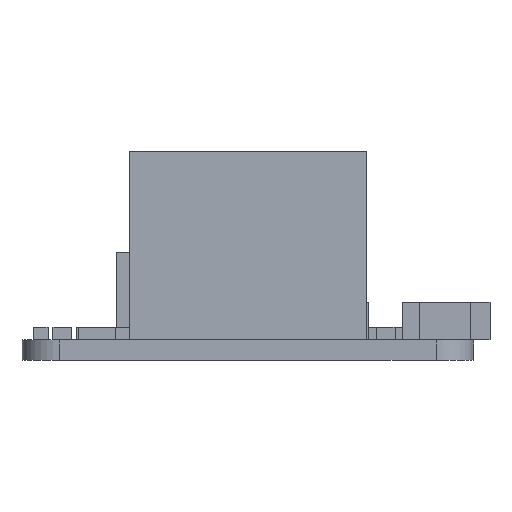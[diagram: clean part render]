
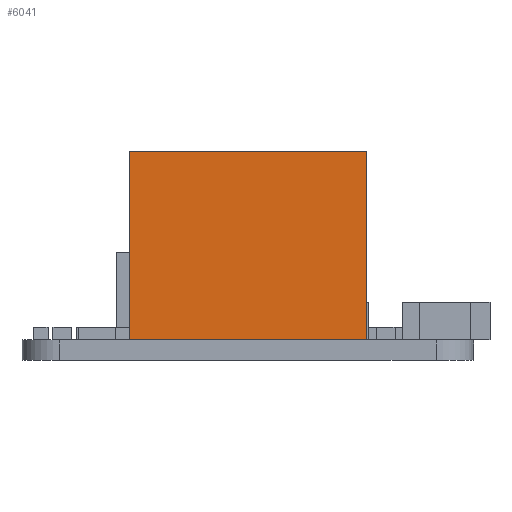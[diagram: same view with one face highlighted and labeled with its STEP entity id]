
A CAD part, front view. The second image highlights one B-rep face of the part: STEP entity #6041.
In plain terms, the highlighted planar face has unit normal (0, -1, 0).
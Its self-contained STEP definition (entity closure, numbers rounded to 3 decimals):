
#90 = PLANE('',#91);
#91 = AXIS2_PLACEMENT_3D('',#92,#93,#94);
#92 = CARTESIAN_POINT('',(0.,13.,1.62));
#93 = DIRECTION('',(0.,0.,1.));
#94 = DIRECTION('',(1.,0.,-0.));
#1089 = VERTEX_POINT('',#1090);
#1090 = CARTESIAN_POINT('',(-9.458,-29.547,1.62));
#1106 = PLANE('',#1107);
#1107 = AXIS2_PLACEMENT_3D('',#1108,#1109,#1110);
#1108 = CARTESIAN_POINT('',(-9.458,-29.547,1.62));
#1109 = DIRECTION('',(1.,0.,-0.));
#1110 = DIRECTION('',(0.,0.,1.));
#1147 = VERTEX_POINT('',#1148);
#1148 = CARTESIAN_POINT('',(9.457,-29.547,1.62));
#1162 = PLANE('',#1163);
#1163 = AXIS2_PLACEMENT_3D('',#1164,#1165,#1166);
#1164 = CARTESIAN_POINT('',(9.457,-29.547,1.62));
#1165 = DIRECTION('',(1.,0.,-0.));
#1166 = DIRECTION('',(0.,0.,1.));
#1174 = EDGE_CURVE('',#1089,#1147,#1175,.T.);
#1175 = SURFACE_CURVE('',#1176,(#1180,#1187),.PCURVE_S1.);
#1176 = LINE('',#1177,#1178);
#1177 = CARTESIAN_POINT('',(-9.458,-29.547,1.62));
#1178 = VECTOR('',#1179,1.);
#1179 = DIRECTION('',(1.,0.,-0.));
#1180 = PCURVE('',#90,#1181);
#1181 = DEFINITIONAL_REPRESENTATION('',(#1182),#1186);
#1182 = LINE('',#1183,#1184);
#1183 = CARTESIAN_POINT('',(-9.458,-42.547));
#1184 = VECTOR('',#1185,1.);
#1185 = DIRECTION('',(1.,0.));
#1186 = ( GEOMETRIC_REPRESENTATION_CONTEXT(2) 
PARAMETRIC_REPRESENTATION_CONTEXT() REPRESENTATION_CONTEXT('2D SPACE',''
  ) );
#1187 = PCURVE('',#1188,#1193);
#1188 = PLANE('',#1189);
#1189 = AXIS2_PLACEMENT_3D('',#1190,#1191,#1192);
#1190 = CARTESIAN_POINT('',(-9.458,-29.547,1.62));
#1191 = DIRECTION('',(-0.,1.,0.));
#1192 = DIRECTION('',(0.,0.,1.));
#1193 = DEFINITIONAL_REPRESENTATION('',(#1194),#1198);
#1194 = LINE('',#1195,#1196);
#1195 = CARTESIAN_POINT('',(0.,0.));
#1196 = VECTOR('',#1197,1.);
#1197 = DIRECTION('',(0.,1.));
#1198 = ( GEOMETRIC_REPRESENTATION_CONTEXT(2) 
PARAMETRIC_REPRESENTATION_CONTEXT() REPRESENTATION_CONTEXT('2D SPACE',''
  ) );
#5920 = EDGE_CURVE('',#1089,#5921,#5923,.T.);
#5921 = VERTEX_POINT('',#5922);
#5922 = CARTESIAN_POINT('',(-9.458,-29.547,16.62));
#5923 = SURFACE_CURVE('',#5924,(#5928,#5935),.PCURVE_S1.);
#5924 = LINE('',#5925,#5926);
#5925 = CARTESIAN_POINT('',(-9.458,-29.547,1.62));
#5926 = VECTOR('',#5927,1.);
#5927 = DIRECTION('',(0.,0.,1.));
#5928 = PCURVE('',#1106,#5929);
#5929 = DEFINITIONAL_REPRESENTATION('',(#5930),#5934);
#5930 = LINE('',#5931,#5932);
#5931 = CARTESIAN_POINT('',(0.,0.));
#5932 = VECTOR('',#5933,1.);
#5933 = DIRECTION('',(1.,0.));
#5934 = ( GEOMETRIC_REPRESENTATION_CONTEXT(2) 
PARAMETRIC_REPRESENTATION_CONTEXT() REPRESENTATION_CONTEXT('2D SPACE',''
  ) );
#5935 = PCURVE('',#1188,#5936);
#5936 = DEFINITIONAL_REPRESENTATION('',(#5937),#5941);
#5937 = LINE('',#5938,#5939);
#5938 = CARTESIAN_POINT('',(0.,0.));
#5939 = VECTOR('',#5940,1.);
#5940 = DIRECTION('',(1.,0.));
#5941 = ( GEOMETRIC_REPRESENTATION_CONTEXT(2) 
PARAMETRIC_REPRESENTATION_CONTEXT() REPRESENTATION_CONTEXT('2D SPACE',''
  ) );
#5981 = PLANE('',#5982);
#5982 = AXIS2_PLACEMENT_3D('',#5983,#5984,#5985);
#5983 = CARTESIAN_POINT('',(-9.458,-29.547,16.62));
#5984 = DIRECTION('',(0.,0.,1.));
#5985 = DIRECTION('',(1.,0.,-0.));
#6041 = ADVANCED_FACE('',(#6042),#1188,.F.);
#6042 = FACE_BOUND('',#6043,.F.);
#6043 = EDGE_LOOP('',(#6044,#6045,#6046,#6069));
#6044 = ORIENTED_EDGE('',*,*,#1174,.F.);
#6045 = ORIENTED_EDGE('',*,*,#5920,.T.);
#6046 = ORIENTED_EDGE('',*,*,#6047,.T.);
#6047 = EDGE_CURVE('',#5921,#6048,#6050,.T.);
#6048 = VERTEX_POINT('',#6049);
#6049 = CARTESIAN_POINT('',(9.457,-29.547,16.62));
#6050 = SURFACE_CURVE('',#6051,(#6055,#6062),.PCURVE_S1.);
#6051 = LINE('',#6052,#6053);
#6052 = CARTESIAN_POINT('',(-9.458,-29.547,16.62));
#6053 = VECTOR('',#6054,1.);
#6054 = DIRECTION('',(1.,0.,-0.));
#6055 = PCURVE('',#1188,#6056);
#6056 = DEFINITIONAL_REPRESENTATION('',(#6057),#6061);
#6057 = LINE('',#6058,#6059);
#6058 = CARTESIAN_POINT('',(15.,0.));
#6059 = VECTOR('',#6060,1.);
#6060 = DIRECTION('',(0.,1.));
#6061 = ( GEOMETRIC_REPRESENTATION_CONTEXT(2) 
PARAMETRIC_REPRESENTATION_CONTEXT() REPRESENTATION_CONTEXT('2D SPACE',''
  ) );
#6062 = PCURVE('',#5981,#6063);
#6063 = DEFINITIONAL_REPRESENTATION('',(#6064),#6068);
#6064 = LINE('',#6065,#6066);
#6065 = CARTESIAN_POINT('',(0.,0.));
#6066 = VECTOR('',#6067,1.);
#6067 = DIRECTION('',(1.,0.));
#6068 = ( GEOMETRIC_REPRESENTATION_CONTEXT(2) 
PARAMETRIC_REPRESENTATION_CONTEXT() REPRESENTATION_CONTEXT('2D SPACE',''
  ) );
#6069 = ORIENTED_EDGE('',*,*,#6070,.F.);
#6070 = EDGE_CURVE('',#1147,#6048,#6071,.T.);
#6071 = SURFACE_CURVE('',#6072,(#6076,#6083),.PCURVE_S1.);
#6072 = LINE('',#6073,#6074);
#6073 = CARTESIAN_POINT('',(9.457,-29.547,1.62));
#6074 = VECTOR('',#6075,1.);
#6075 = DIRECTION('',(0.,0.,1.));
#6076 = PCURVE('',#1188,#6077);
#6077 = DEFINITIONAL_REPRESENTATION('',(#6078),#6082);
#6078 = LINE('',#6079,#6080);
#6079 = CARTESIAN_POINT('',(0.,18.915));
#6080 = VECTOR('',#6081,1.);
#6081 = DIRECTION('',(1.,0.));
#6082 = ( GEOMETRIC_REPRESENTATION_CONTEXT(2) 
PARAMETRIC_REPRESENTATION_CONTEXT() REPRESENTATION_CONTEXT('2D SPACE',''
  ) );
#6083 = PCURVE('',#1162,#6084);
#6084 = DEFINITIONAL_REPRESENTATION('',(#6085),#6089);
#6085 = LINE('',#6086,#6087);
#6086 = CARTESIAN_POINT('',(0.,0.));
#6087 = VECTOR('',#6088,1.);
#6088 = DIRECTION('',(1.,0.));
#6089 = ( GEOMETRIC_REPRESENTATION_CONTEXT(2) 
PARAMETRIC_REPRESENTATION_CONTEXT() REPRESENTATION_CONTEXT('2D SPACE',''
  ) );
